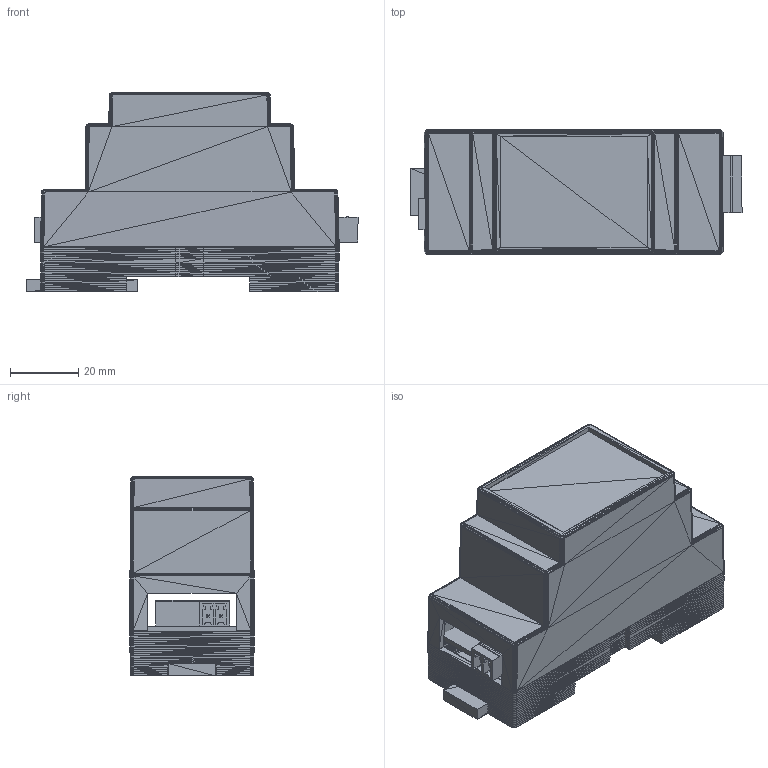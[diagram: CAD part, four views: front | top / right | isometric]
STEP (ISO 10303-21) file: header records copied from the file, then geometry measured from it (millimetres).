
FILE_DESCRIPTION(/* description */ (''),/* implementation_level */ '2;1');
FILE_NAME(/* name */ 'DCP48M v1.step',/* time_stamp */ '2025-12-15T17:05:09+01:00',/* author */ (''),/* organization */ (''),/* preprocessor_version */ 'ST-DEVELOPER v20.1',/* originating_system */ 'Autodesk Translation Framework v14.17.0.0',/* authorisation */ '');
FILE_SCHEMA (('AUTOMOTIVE_DESIGN { 1 0 10303 214 3 1 1 }'));
Products named in the file (6): DCP48M; Housings; dcp48m 1; PhoenixContact_MC_1,5_4-G-3.81_1x04_P3.81mm_Horizontal; PhoenixContact_MC_1,5_2-G-3.81_1x02_P3.81mm_Horizontal; dcdcpower_PCB
Assembly tree (5 placements, depth 3):
  DCP48M
    Housings
    dcp48m 1
      PhoenixContact_MC_1,5_4-G-3.81_1x04_P3.81mm_Horizontal
      PhoenixContact_MC_1,5_2-G-3.81_1x02_P3.81mm_Horizontal
      dcdcpower_PCB
Bounding box: 97.2 x 36.5 x 58.49 mm (x, y, z)
Volume: 40308.8 mm3; surface area: 42950.2 mm2
Topology: 5 solids, 5 shells, 4540 faces, 7056 edges, 2538 vertices
Faces by surface type: plane 4518, cylinder 22
Full cylindrical faces by diameter (mm): 0.2 x4, 1.2 x6, 3.1 x2
Entity records: 91373 total; most frequent: DIRECTION 16202, CARTESIAN_POINT 14145, ORIENTED_EDGE 14112, EDGE_CURVE 7056, LINE 7012, VECTOR 7012, AXIS2_PLACEMENT_3D 4595, EDGE_LOOP 4582
